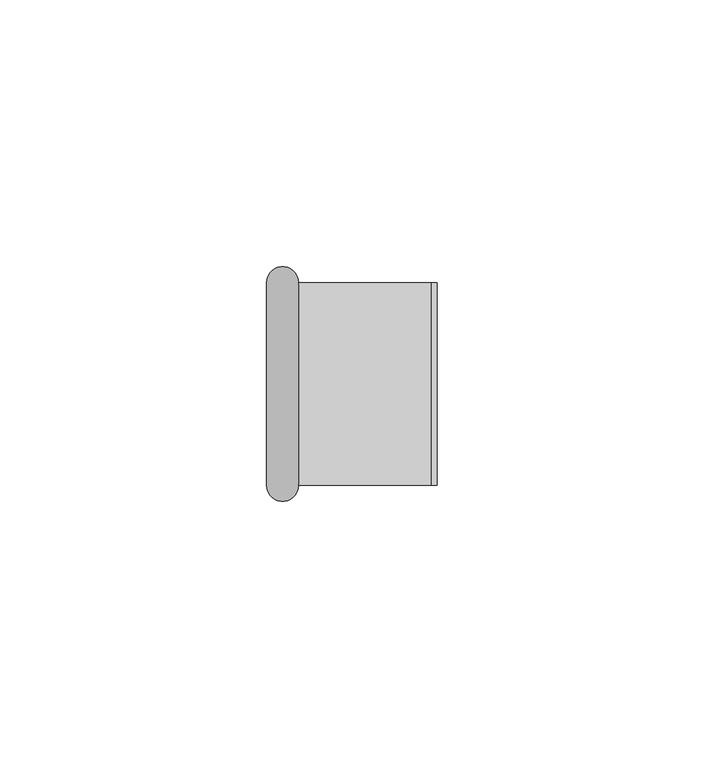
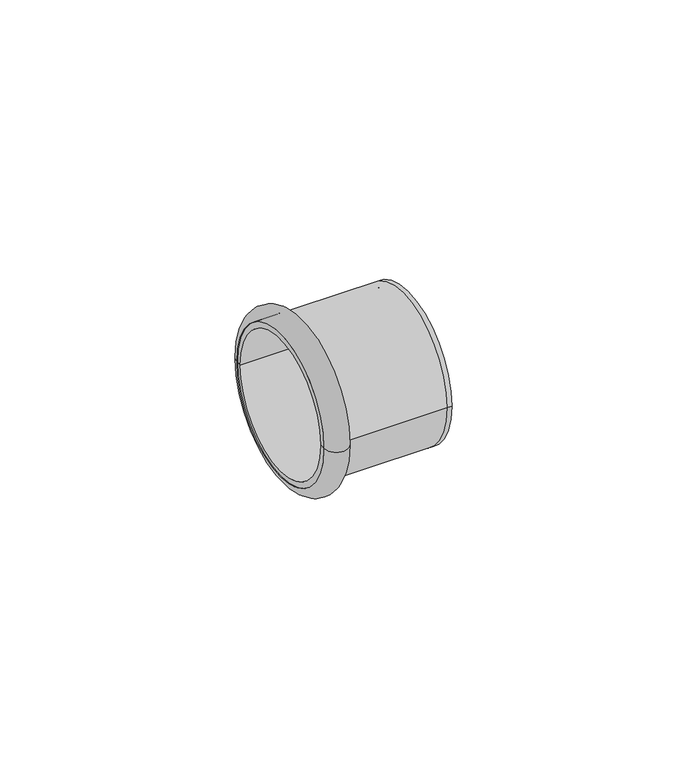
"""IFC4 building model written with IfcOpenShell, lengths in millimetres: pipe fitting geometry, NLRS_50_PIF_UN_Geberit Mapress Therm kap_PRO_3207990 : DN12-100 / d15-108 - OD."""

from ifc_helpers import new_model, si_unit, point, frame, origin, place, context, project, spatial, polyline, circle_curve, ellipse_curve, trimmed, source, transform, mapped, element, save
from ifc_brep_helpers import plane_surface, cylinder_surface, revolved_surface, advanced_brep


def pipe_fitting_2e0e9b0a(model_context):
    return source(origin(), model_context, "Body", "AdvancedBrep", [
        advanced_brep(
        [(-30.8, 19.0, 0.0), (-30.8, -19.0, 0.0), (-24.8, -19.0, 0.0), (-24.8, 19.0, 0.0)],
        [
            (0, 1, circle_curve(frame((-30.8, 0.0, 0.0), z_axis=(-1.0, 0.0, 0.0), x_axis=(0.0, -1.0, 0.0)), 19.0)),
            (1, 2),
            (2, 3, circle_curve(frame((-24.8, 0.0, 0.0), z_axis=(1.0, 0.0, 0.0), x_axis=(0.0, -1.0, 0.0)), 19.0)),
            (3, 0),
            (1, 0, circle_curve(frame((-30.8, 0.0, 0.0), z_axis=(-1.0, 0.0, 0.0), x_axis=(0.0, -1.0, 0.0)), 19.0)),
            (3, 2, circle_curve(frame((-24.8, 0.0, 0.0), z_axis=(1.0, 0.0, 0.0), x_axis=(0.0, -1.0, 0.0)), 19.0)),
            (2, 1, circle_curve(frame((-27.8, -19.0, 0.0), z_axis=(0.0, 0.0, -1.0), x_axis=(-1.0, 0.0, 0.0)), 3.0)),
            (0, 3, circle_curve(frame((-27.8, 19.0, 0.0), z_axis=(0.0, 0.0, -1.0), x_axis=(-1.0, 0.0, 0.0)), 3.0)),
        ],
        [
            revolved_surface(polyline([(-24.799999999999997, -19.0, 0.0), (-30.799999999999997, -19.0, 0.0)]), (10.0779068, 0.0, 0.0), (1.0, 0.0, 0.0)),
            revolved_surface(trimmed(ellipse_curve(frame((-27.8, -19.0, 0.0), z_axis=(0.0, 0.0, 1.0), x_axis=(-1.0, 0.0, 0.0)), 3.0, 3.0), [point((-30.8, -19.0, 0.0))], [point((-24.8, -19.0, 0.0))], True, "CARTESIAN"), (10.0779068, 0.0, 0.0), (1.0, 0.0, 0.0)),
        ],
        [
            (0, [[1, 2, 3, 4]]),
            (0, [[5, -4, 6, -2]]),
            (1, [[-3, 7, -1, 8]]),
            (1, [[-6, -8, -5, -7]]),
        ],
    ),
        advanced_brep(
        [(-30.8, 17.5, 0.0), (-30.8, -17.5, 0.0), (-0.3, -17.5, 0.0), (-0.3, 17.5, 0.0), (0.0, 19.0, 0.0), (0.0, -19.0, 0.0), (-30.8, -19.0, 0.0), (-30.8, 19.0, 0.0), (1.2, 19.0, 0.0), (1.2, -19.0, 0.0), (1.2, 0.0, 0.0), (-0.3, 0.0, 0.0)],
        [
            (0, 1, circle_curve(frame((-30.8, 0.0, 0.0), z_axis=(-1.0, 0.0, 0.0), x_axis=(0.0, -1.0, 0.0)), 17.5)),
            (1, 2),
            (2, 3, circle_curve(frame((-0.3, 0.0, 0.0), z_axis=(1.0, 0.0, 0.0), x_axis=(0.0, -1.0, 0.0)), 17.5)),
            (3, 0),
            (1, 0, circle_curve(frame((-30.8, 0.0, 0.0), z_axis=(-1.0, 0.0, 0.0), x_axis=(0.0, -1.0, 0.0)), 17.5)),
            (3, 2, circle_curve(frame((-0.3, 0.0, 0.0), z_axis=(1.0, 0.0, 0.0), x_axis=(0.0, -1.0, 0.0)), 17.5)),
            (4, 5, circle_curve(frame((0.0, 0.0, 0.0), z_axis=(-1.0, 0.0, 0.0), x_axis=(0.0, -1.0, 0.0)), 19.0)),
            (5, 6),
            (6, 7, circle_curve(frame((-30.8, 0.0, 0.0), z_axis=(1.0, 0.0, 0.0), x_axis=(0.0, -1.0, 0.0)), 19.0)),
            (7, 4),
            (5, 4, circle_curve(frame((0.0, 0.0, 0.0), z_axis=(-1.0, 0.0, 0.0), x_axis=(0.0, -1.0, 0.0)), 19.0)),
            (7, 6, circle_curve(frame((-30.8, 0.0, 0.0), z_axis=(1.0, 0.0, 0.0), x_axis=(0.0, -1.0, 0.0)), 19.0)),
            (6, 1),
            (0, 7),
            (8, 9, circle_curve(frame((1.2, 0.0, 0.0), z_axis=(-1.0, 0.0, 0.0), x_axis=(0.0, -1.0, 0.0)), 19.0)),
            (9, 5),
            (4, 8),
            (9, 8, circle_curve(frame((1.2, 0.0, 0.0), z_axis=(-1.0, 0.0, 0.0), x_axis=(0.0, -1.0, 0.0)), 19.0)),
            (10, 9),
            (8, 10),
            (2, 11),
            (11, 3),
        ],
        [
            revolved_surface(polyline([(-0.3, -17.5, 0.0), (-30.8, -17.5, 0.0)]), (0.0, 0.0, 0.0), (1.0, 0.0, 0.0)),
            cylinder_surface(frame((0.0, 0.0, 0.0), z_axis=(1.0, 0.0, 0.0), x_axis=(0.0, -1.0, 0.0)), 19.0),
            plane_surface(frame((-30.8, 0.0, 0.0), z_axis=(-1.0, 0.0, 0.0), x_axis=(0.0, -1.0, 0.0))),
            plane_surface(frame((1.2, 0.0, 0.0), z_axis=(1.0, 0.0, 0.0), x_axis=(0.0, -1.0, 0.0))),
            plane_surface(frame((-0.3, 0.0, 0.0), z_axis=(-1.0, 0.0, 0.0), x_axis=(0.0, -1.0, 0.0))),
        ],
        [
            (0, [[1, 2, 3, 4]]),
            (0, [[5, -4, 6, -2]]),
            (1, [[7, 8, 9, 10]]),
            (1, [[11, -10, 12, -8]]),
            (2, [[-9, 13, -1, 14]]),
            (2, [[-12, -14, -5, -13]]),
            (1, [[15, 16, -7, 17]]),
            (1, [[18, -17, -11, -16]]),
            (3, [[19, -15, 20]]),
            (3, [[-20, -18, -19]]),
            (4, [[-3, 21, 22]]),
            (4, [[-6, -22, -21]]),
        ],
    ),
    ])


if __name__ == "__main__":
    model = new_model("IFC4")
    model_context = context("Model", 3, world=origin())
    ifc_project = project(units=[si_unit("LENGTHUNIT", "METRE", prefix="MILLI")], contexts=[model_context])
    site = spatial("IfcSite", under=ifc_project)
    building = spatial("IfcBuilding", under=site)
    placement = place(None, origin())
    pipe_fitting_shape = pipe_fitting_2e0e9b0a(model_context)
    element("IfcPipeFitting", 1, ObjectType="NLRS_50_PIF_UN_Geberit Mapress Therm kap_PRO_3207990 : DN12-100 / d15-108 - OD", at=placement, inside=building, context=model_context, shape_type="MappedRepresentation", body=[
        mapped(pipe_fitting_shape, transform((0.0, 0.0, 0.0), x_axis=(1.0, 0.0, 0.0), y_axis=(0.0, 1.0, 0.0), z_axis=(0.0, 0.0, 1.0))),
    ])
    save(model, "model.ifc")
